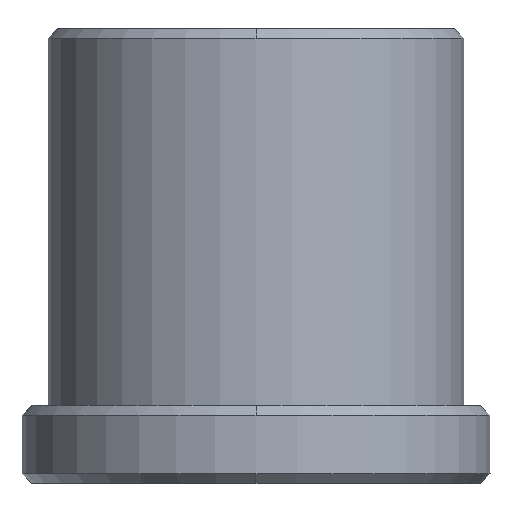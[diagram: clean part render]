
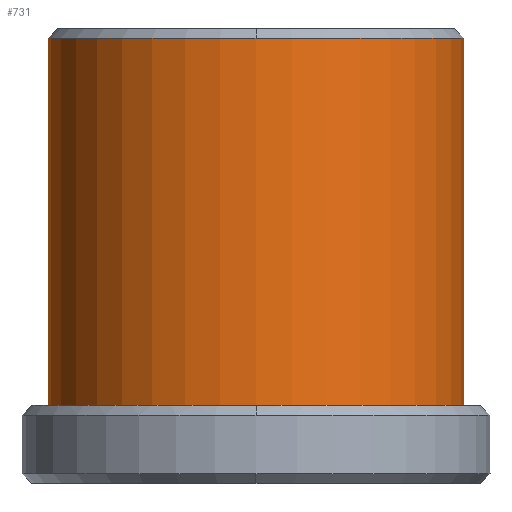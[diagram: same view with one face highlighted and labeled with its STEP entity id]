
A CAD part, front view. The second image highlights one B-rep face of the part: STEP entity #731.
In plain terms, the highlighted cylindrical face has radius 16 mm (diameter 32 mm), a partial arc.
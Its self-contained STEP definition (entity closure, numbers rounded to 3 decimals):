
#653=CARTESIAN_POINT('Line Origine',(16.,0.,-1.75)) ;
#657=CARTESIAN_POINT('Vertex',(16.,0.,34.25)) ;
#659=CARTESIAN_POINT('Vertex',(16.,0.,6.)) ;
#666=CARTESIAN_POINT('Vertex',(-16.,0.,6.)) ;
#669=CARTESIAN_POINT('Line Origine',(-16.,0.,-1.75)) ;
#673=CARTESIAN_POINT('Vertex',(-16.,0.,34.25)) ;
#702=CARTESIAN_POINT('Axis2P3D Location',(0.,0.,-1.75)) ;
#707=CARTESIAN_POINT('Axis2P3D Location',(0.,0.,6.)) ;
#712=CARTESIAN_POINT('Axis2P3D Location',(0.,0.,34.25)) ;
#716=CARTESIAN_POINT('Vertex',(0.,-16.,34.25)) ;
#719=CARTESIAN_POINT('Axis2P3D Location',(0.,0.,34.25)) ;
#654=DIRECTION('Vector Direction',(0.,0.,1.)) ;
#670=DIRECTION('Vector Direction',(0.,0.,1.)) ;
#703=DIRECTION('Axis2P3D Direction',(0.,0.,1.)) ;
#704=DIRECTION('Axis2P3D XDirection',(-1.,0.,0.)) ;
#708=DIRECTION('Axis2P3D Direction',(0.,0.,1.)) ;
#713=DIRECTION('Axis2P3D Direction',(0.,0.,1.)) ;
#720=DIRECTION('Axis2P3D Direction',(0.,0.,1.)) ;
#705=AXIS2_PLACEMENT_3D('Cylinder Axis2P3D',#702,#703,#704) ;
#709=AXIS2_PLACEMENT_3D('Circle Axis2P3D',#707,#708,$) ;
#714=AXIS2_PLACEMENT_3D('Circle Axis2P3D',#712,#713,$) ;
#721=AXIS2_PLACEMENT_3D('Circle Axis2P3D',#719,#720,$) ;
#725=ORIENTED_EDGE('',*,*,#675,.T.) ;
#726=ORIENTED_EDGE('',*,*,#711,.F.) ;
#727=ORIENTED_EDGE('',*,*,#661,.F.) ;
#728=ORIENTED_EDGE('',*,*,#718,.T.) ;
#729=ORIENTED_EDGE('',*,*,#723,.T.) ;
#655=VECTOR('Line Direction',#654,1.) ;
#671=VECTOR('Line Direction',#670,1.) ;
#731=ADVANCED_FACE('MANIFOLD_SOLID_BREP #1864',(#730),#706,.T.) ;
#710=CIRCLE('generated circle',#709,16.) ;
#715=CIRCLE('generated circle',#714,16.) ;
#722=CIRCLE('generated circle',#721,16.) ;
#706=CYLINDRICAL_SURFACE('generated cylinder',#705,16.) ;
#661=EDGE_CURVE('',#658,#660,#656,.F.) ;
#675=EDGE_CURVE('',#674,#667,#672,.F.) ;
#711=EDGE_CURVE('',#660,#667,#710,.F.) ;
#718=EDGE_CURVE('',#658,#717,#715,.F.) ;
#723=EDGE_CURVE('',#717,#674,#722,.F.) ;
#724=EDGE_LOOP('',(#725,#726,#727,#728,#729)) ;
#730=FACE_OUTER_BOUND('',#724,.T.) ;
#656=LINE('Line',#653,#655) ;
#672=LINE('Line',#669,#671) ;
#658=VERTEX_POINT('',#657) ;
#660=VERTEX_POINT('',#659) ;
#667=VERTEX_POINT('',#666) ;
#674=VERTEX_POINT('',#673) ;
#717=VERTEX_POINT('',#716) ;
